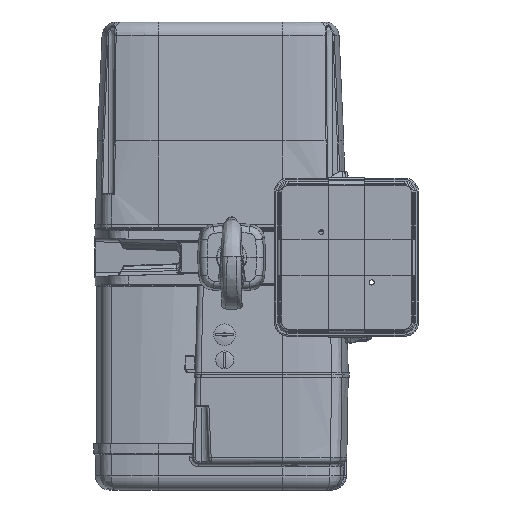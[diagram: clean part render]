
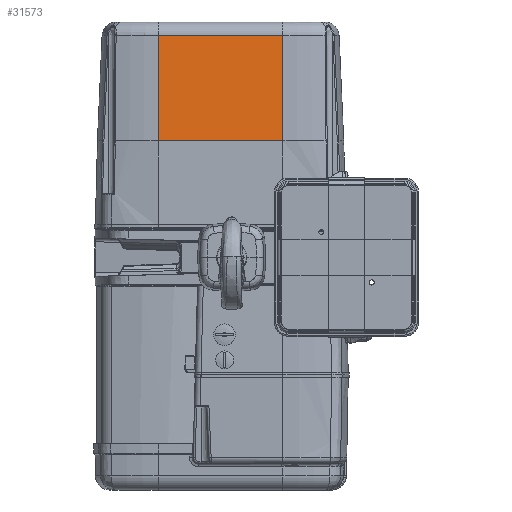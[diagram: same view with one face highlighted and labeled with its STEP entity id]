
A CAD part, front view. The second image highlights one B-rep face of the part: STEP entity #31573.
In plain terms, the highlighted planar face has unit normal (0, -0.999, 0.044).
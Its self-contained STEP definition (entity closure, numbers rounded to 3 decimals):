
#7051=FACE_OUTER_BOUND('',#8909,.T.);
#8909=EDGE_LOOP('',(#26038,#26039,#26040,#26041));
#10618=LINE('',#68130,#12377);
#10619=LINE('',#68132,#12378);
#10620=LINE('',#68134,#12379);
#10621=LINE('',#68135,#12380);
#12377=VECTOR('',#40506,10.);
#12378=VECTOR('',#40507,10.);
#12379=VECTOR('',#40508,10.);
#12380=VECTOR('',#40509,10.);
#14911=VERTEX_POINT('',#68128);
#14912=VERTEX_POINT('',#68129);
#14913=VERTEX_POINT('',#68131);
#14914=VERTEX_POINT('',#68133);
#18815=EDGE_CURVE('',#14911,#14912,#10618,.T.);
#18816=EDGE_CURVE('',#14913,#14912,#10619,.T.);
#18817=EDGE_CURVE('',#14914,#14913,#10620,.T.);
#18818=EDGE_CURVE('',#14914,#14911,#10621,.T.);
#26038=ORIENTED_EDGE('',*,*,#18815,.T.);
#26039=ORIENTED_EDGE('',*,*,#18816,.F.);
#26040=ORIENTED_EDGE('',*,*,#18817,.F.);
#26041=ORIENTED_EDGE('',*,*,#18818,.T.);
#30207=PLANE('',#34304);
#31573=ADVANCED_FACE('',(#7051),#30207,.F.);
#34304=AXIS2_PLACEMENT_3D('',#68127,#40504,#40505);
#40504=DIRECTION('center_axis',(0.,0.999,
-0.044));
#40505=DIRECTION('ref_axis',(0.,0.044,0.999));
#40506=DIRECTION('',(-1.,0.,0.));
#40507=DIRECTION('',(0.,0.044,0.999));
#40508=DIRECTION('',(-1.,0.,0.));
#40509=DIRECTION('',(0.,0.044,0.999));
#68127=CARTESIAN_POINT('Origin',(-7.,-370.608,161.5));
#68128=CARTESIAN_POINT('',(79.5,-364.239,307.372));
#68129=CARTESIAN_POINT('',(-93.5,-364.239,307.372));
#68130=CARTESIAN_POINT('',(33.867,-364.239,307.372));
#68131=CARTESIAN_POINT('',(-93.5,-370.604,161.587));
#68132=CARTESIAN_POINT('',(-93.5,-370.608,161.5));
#68133=CARTESIAN_POINT('',(79.5,-370.604,161.587));
#68134=CARTESIAN_POINT('',(-7.,-370.604,161.587));
#68135=CARTESIAN_POINT('',(79.5,-370.608,161.5));
